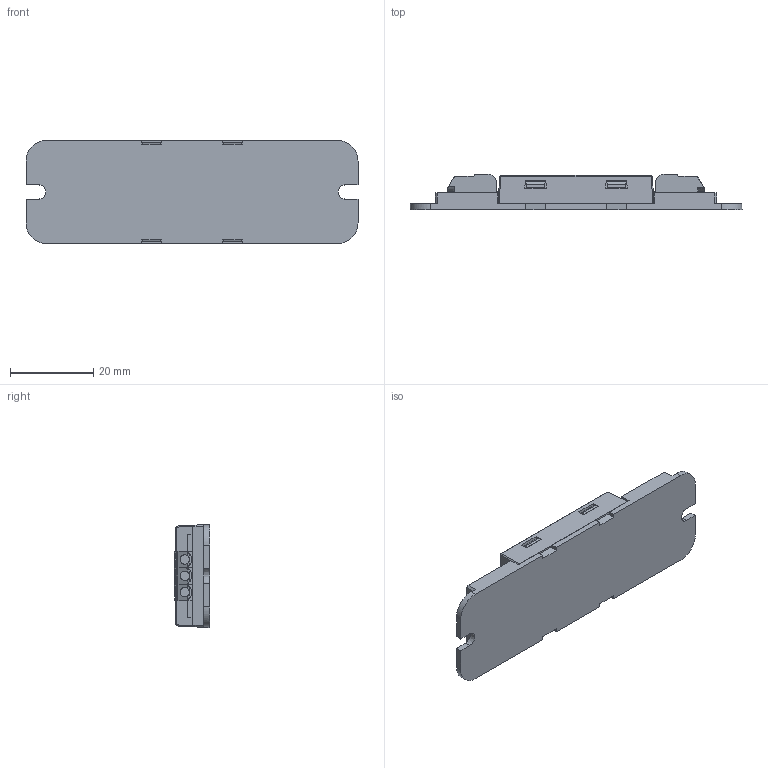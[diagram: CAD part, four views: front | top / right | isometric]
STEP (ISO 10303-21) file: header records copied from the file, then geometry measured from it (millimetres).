
FILE_DESCRIPTION(/* description */ ('STEP AP203'),/* implementation_level */ '2;1');
FILE_NAME(/* name */ 'APT-CC-VDW-M1.step',/* time_stamp */ '2026-01-14T14:02:13-05:00',/* author */ (''),/* organization */ (''),/* preprocessor_version */ 'ST-DEVELOPER v20.1',/* originating_system */ 'Autodesk Translation Framework v14.21.0.0',/* authorisation */ '');
FILE_SCHEMA (('AUTOMOTIVE_DESIGN { 1 0 10303 214 3 1 1 }'));
Length unit declared in the file: millimetre
Products named in the file (6): M1; Bottom part; Top Part; board; M1 booard; WAGO_1PIN
Assembly tree (9 placements, depth 3):
  M1
    Bottom part
    Top Part
    board
      M1 booard
      WAGO_1PIN  x5
Bounding box: 80 x 8.6 x 24.9 mm (x, y, z)
Volume: 11131.3 mm3; surface area: 12275.5 mm2
Topology: 8 solids, 8 shells, 681 faces, 1937 edges, 1284 vertices
Faces by surface type: plane 525, cylinder 145, sphere 5, bspline 4, cone 2
Full cylindrical faces by diameter (mm): 2.25 x5
Entity records: 9691 total; most frequent: CARTESIAN_POINT 1876, ORIENTED_EDGE 1658, DIRECTION 1483, EDGE_CURVE 829, LINE 745, VECTOR 745, VERTEX_POINT 548, AXIS2_PLACEMENT_3D 369
